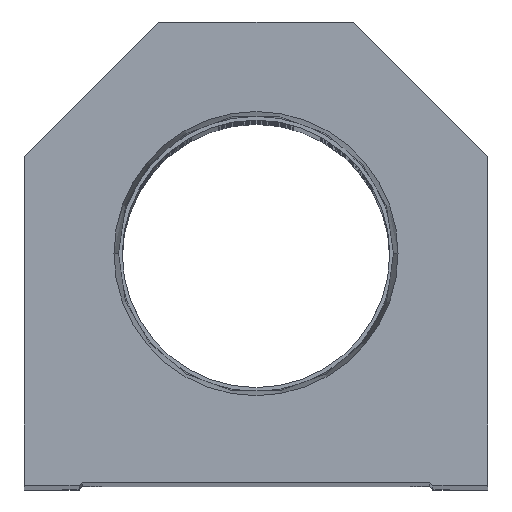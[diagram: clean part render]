
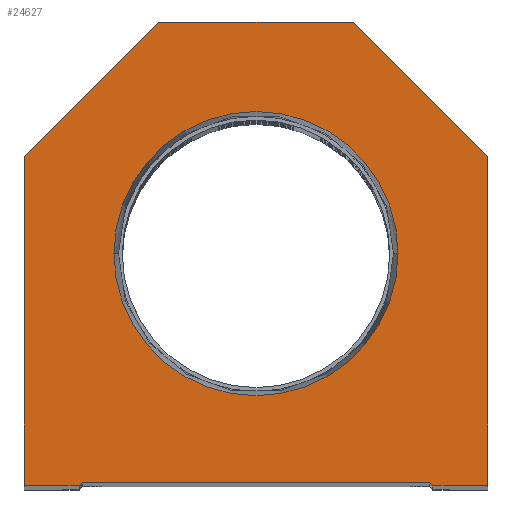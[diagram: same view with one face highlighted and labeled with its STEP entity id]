
A CAD part, top view. The second image highlights one B-rep face of the part: STEP entity #24627.
In plain terms, the highlighted planar face has unit normal (0, 0, 1).
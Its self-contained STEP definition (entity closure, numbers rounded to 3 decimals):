
#150 = VECTOR ( 'NONE', #21003, 1000. ) ;
#159 = ORIENTED_EDGE ( 'NONE', *, *, #7030, .T. ) ;
#596 = ORIENTED_EDGE ( 'NONE', *, *, #9581, .T. ) ;
#683 = EDGE_CURVE ( 'NONE', #11765, #8260, #14279, .T. ) ;
#845 = AXIS2_PLACEMENT_3D ( 'NONE', #7308, #25797, #24033 ) ;
#878 = CARTESIAN_POINT ( 'NONE',  ( -28.6, 0.5, 0. ) ) ;
#1315 = DIRECTION ( 'NONE',  ( 0., -1., 0. ) ) ;
#1643 = DIRECTION ( 'NONE',  ( 0., 0., 1. ) ) ;
#1705 = ORIENTED_EDGE ( 'NONE', *, *, #20676, .T. ) ;
#2338 = AXIS2_PLACEMENT_3D ( 'NONE', #11897, #1643, #9866 ) ;
#2722 = VERTEX_POINT ( 'NONE', #15341 ) ;
#2945 = VERTEX_POINT ( 'NONE', #8385 ) ;
#3052 = ORIENTED_EDGE ( 'NONE', *, *, #683, .T. ) ;
#3143 = DIRECTION ( 'NONE',  ( 0., 1., 0. ) ) ;
#3353 = CARTESIAN_POINT ( 'NONE',  ( -38.1, 0., 0. ) ) ;
#3641 = CIRCLE ( 'NONE', #2338, 23.374 ) ;
#3893 = EDGE_CURVE ( 'NONE', #5291, #26041, #13988, .T. ) ;
#4070 = CARTESIAN_POINT ( 'NONE',  ( 0., 38.1, 0. ) ) ;
#4096 = VECTOR ( 'NONE', #16699, 1000. ) ;
#5291 = VERTEX_POINT ( 'NONE', #21795 ) ;
#5503 = CARTESIAN_POINT ( 'NONE',  ( 16., 76.2, 0. ) ) ;
#6073 = EDGE_LOOP ( 'NONE', ( #596, #1705, #11288, #15595, #159, #14444, #6733, #16524, #20746, #3052 ) ) ;
#6557 = CARTESIAN_POINT ( 'NONE',  ( 28.6, 0.5, 0. ) ) ;
#6733 = ORIENTED_EDGE ( 'NONE', *, *, #23228, .T. ) ;
#6995 = EDGE_LOOP ( 'NONE', ( #18518, #25164 ) ) ;
#7030 = EDGE_CURVE ( 'NONE', #16150, #18805, #26424, .T. ) ;
#7308 = CARTESIAN_POINT ( 'NONE',  ( 0., 0., 0. ) ) ;
#7574 = FACE_BOUND ( 'NONE', #6995, .T. ) ;
#7761 = VECTOR ( 'NONE', #1315, 1000. ) ;
#8054 = LINE ( 'NONE', #16306, #4096 ) ;
#8096 = EDGE_CURVE ( 'NONE', #18805, #2722, #15425, .T. ) ;
#8260 = VERTEX_POINT ( 'NONE', #10314 ) ;
#8293 = VERTEX_POINT ( 'NONE', #9932 ) ;
#8385 = CARTESIAN_POINT ( 'NONE',  ( -16., 76.2, 0. ) ) ;
#8496 = LINE ( 'NONE', #24962, #11562 ) ;
#9054 = CARTESIAN_POINT ( 'NONE',  ( 38.1, 0., 0. ) ) ;
#9136 = VECTOR ( 'NONE', #24419, 1000. ) ;
#9559 = CARTESIAN_POINT ( 'NONE',  ( -28.6, 0.5, 0. ) ) ;
#9581 = EDGE_CURVE ( 'NONE', #8260, #8293, #8496, .T. ) ;
#9866 = DIRECTION ( 'NONE',  ( 1., 0., 0. ) ) ;
#9910 = LINE ( 'NONE', #12085, #15898 ) ;
#9932 = CARTESIAN_POINT ( 'NONE',  ( -29.1, 0., 0. ) ) ;
#10314 = CARTESIAN_POINT ( 'NONE',  ( -38.1, 0., 0. ) ) ;
#10727 = CARTESIAN_POINT ( 'NONE',  ( 29.1, 0., 0. ) ) ;
#11288 = ORIENTED_EDGE ( 'NONE', *, *, #11424, .T. ) ;
#11424 = EDGE_CURVE ( 'NONE', #24828, #16064, #23300, .T. ) ;
#11562 = VECTOR ( 'NONE', #22943, 1000. ) ;
#11656 = VECTOR ( 'NONE', #25580, 1000. ) ;
#11765 = VERTEX_POINT ( 'NONE', #11945 ) ;
#11897 = CARTESIAN_POINT ( 'NONE',  ( 0., 38.1, 0. ) ) ;
#11945 = CARTESIAN_POINT ( 'NONE',  ( -38.1, 54.1, 0. ) ) ;
#12085 = CARTESIAN_POINT ( 'NONE',  ( 38.1, 54.1, 0. ) ) ;
#12852 = VECTOR ( 'NONE', #3143, 1000. ) ;
#12998 = DIRECTION ( 'NONE',  ( 0.707, 0.707, 0. ) ) ;
#13795 = CARTESIAN_POINT ( 'NONE',  ( 23.374, 38.1, 0. ) ) ;
#13988 = CIRCLE ( 'NONE', #23889, 23.374 ) ;
#14279 = LINE ( 'NONE', #3353, #7761 ) ;
#14444 = ORIENTED_EDGE ( 'NONE', *, *, #8096, .T. ) ;
#15275 = LINE ( 'NONE', #21214, #23941 ) ;
#15341 = CARTESIAN_POINT ( 'NONE',  ( 38.1, 54.1, 0. ) ) ;
#15389 = EDGE_CURVE ( 'NONE', #2945, #11765, #24623, .T. ) ;
#15425 = LINE ( 'NONE', #9054, #12852 ) ;
#15595 = ORIENTED_EDGE ( 'NONE', *, *, #18701, .T. ) ;
#15832 = PLANE ( 'NONE',  #845 ) ;
#15898 = VECTOR ( 'NONE', #20193, 1000. ) ;
#16064 = VERTEX_POINT ( 'NONE', #6557 ) ;
#16150 = VERTEX_POINT ( 'NONE', #10727 ) ;
#16306 = CARTESIAN_POINT ( 'NONE',  ( 14.55, 14.55, 0. ) ) ;
#16524 = ORIENTED_EDGE ( 'NONE', *, *, #17527, .T. ) ;
#16699 = DIRECTION ( 'NONE',  ( 0.707, -0.707, 0. ) ) ;
#17527 = EDGE_CURVE ( 'NONE', #26146, #2945, #24898, .T. ) ;
#18049 = EDGE_CURVE ( 'NONE', #26041, #5291, #3641, .T. ) ;
#18518 = ORIENTED_EDGE ( 'NONE', *, *, #18049, .F. ) ;
#18570 = CARTESIAN_POINT ( 'NONE',  ( -38.1, 54.1, 0. ) ) ;
#18701 = EDGE_CURVE ( 'NONE', #16064, #16150, #8054, .T. ) ;
#18805 = VERTEX_POINT ( 'NONE', #23388 ) ;
#19612 = FACE_OUTER_BOUND ( 'NONE', #6073, .T. ) ;
#20193 = DIRECTION ( 'NONE',  ( -0.707, 0.707, 0. ) ) ;
#20676 = EDGE_CURVE ( 'NONE', #8293, #24828, #15275, .T. ) ;
#20681 = DIRECTION ( 'NONE',  ( 0., 0., 1. ) ) ;
#20746 = ORIENTED_EDGE ( 'NONE', *, *, #15389, .T. ) ;
#21003 = DIRECTION ( 'NONE',  ( -1., 0., 0. ) ) ;
#21214 = CARTESIAN_POINT ( 'NONE',  ( -14.55, 14.55, 0. ) ) ;
#21795 = CARTESIAN_POINT ( 'NONE',  ( -23.374, 38.1, 0. ) ) ;
#22532 = CARTESIAN_POINT ( 'NONE',  ( 28.6, 0., 0. ) ) ;
#22943 = DIRECTION ( 'NONE',  ( 1., 0., 0. ) ) ;
#23147 = CARTESIAN_POINT ( 'NONE',  ( 16., 76.2, 0. ) ) ;
#23228 = EDGE_CURVE ( 'NONE', #2722, #26146, #9910, .T. ) ;
#23300 = LINE ( 'NONE', #878, #11656 ) ;
#23388 = CARTESIAN_POINT ( 'NONE',  ( 38.1, 0., 0. ) ) ;
#23889 = AXIS2_PLACEMENT_3D ( 'NONE', #4070, #20681, #24303 ) ;
#23941 = VECTOR ( 'NONE', #12998, 1000. ) ;
#24033 = DIRECTION ( 'NONE',  ( 1., 0., 0. ) ) ;
#24303 = DIRECTION ( 'NONE',  ( 1., 0., 0. ) ) ;
#24419 = DIRECTION ( 'NONE',  ( 1., 0., 0. ) ) ;
#24613 = VECTOR ( 'NONE', #26626, 1000. ) ;
#24623 = LINE ( 'NONE', #18570, #24613 ) ;
#24627 = ADVANCED_FACE ( 'NONE', ( #7574, #19612 ), #15832, .T. ) ;
#24828 = VERTEX_POINT ( 'NONE', #9559 ) ;
#24898 = LINE ( 'NONE', #23147, #150 ) ;
#24962 = CARTESIAN_POINT ( 'NONE',  ( -28.6, 0., 0. ) ) ;
#25164 = ORIENTED_EDGE ( 'NONE', *, *, #3893, .F. ) ;
#25580 = DIRECTION ( 'NONE',  ( 1., 0., 0. ) ) ;
#25797 = DIRECTION ( 'NONE',  ( 0., 0., 1. ) ) ;
#26041 = VERTEX_POINT ( 'NONE', #13795 ) ;
#26146 = VERTEX_POINT ( 'NONE', #5503 ) ;
#26424 = LINE ( 'NONE', #22532, #9136 ) ;
#26626 = DIRECTION ( 'NONE',  ( -0.707, -0.707, 0. ) ) ;
